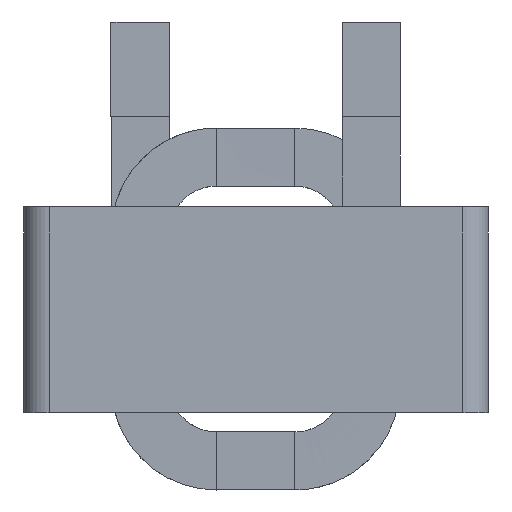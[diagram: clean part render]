
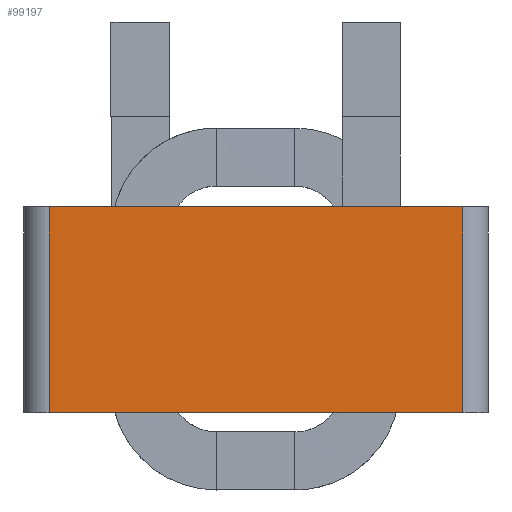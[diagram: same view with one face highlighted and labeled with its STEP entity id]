
A CAD part, front view. The second image highlights one B-rep face of the part: STEP entity #99197.
In plain terms, the highlighted planar face has unit normal (0, -1, 0).
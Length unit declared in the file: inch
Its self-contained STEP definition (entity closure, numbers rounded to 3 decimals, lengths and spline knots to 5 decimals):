
#4378 = CARTESIAN_POINT ( 'NONE',  ( -0.98, -0.61, 0. ) ) ;
#11605 = PLANE ( 'NONE',  #57447 ) ;
#13411 = VERTEX_POINT ( 'NONE', #71083 ) ;
#19534 = EDGE_CURVE ( 'NONE', #13411, #97176, #84042, .T. ) ;
#25353 = DIRECTION ( 'NONE',  ( 0., 0., -1. ) ) ;
#25806 = DIRECTION ( 'NONE',  ( 0., 0., -1. ) ) ;
#27822 = EDGE_CURVE ( 'NONE', #13411, #91884, #98767, .T. ) ;
#27981 = EDGE_LOOP ( 'NONE', ( #82695, #46209, #42177, #44003 ) ) ;
#33005 = CARTESIAN_POINT ( 'NONE',  ( -0.98, -0.61, 0.975 ) ) ;
#37171 = EDGE_CURVE ( 'NONE', #97176, #50827, #63113, .T. ) ;
#38216 = FACE_OUTER_BOUND ( 'NONE', #27981, .T. ) ;
#42177 = ORIENTED_EDGE ( 'NONE', *, *, #27822, .F. ) ;
#44003 = ORIENTED_EDGE ( 'NONE', *, *, #19534, .T. ) ;
#44277 = VECTOR ( 'NONE', #45737, 39.37008 ) ;
#45737 = DIRECTION ( 'NONE',  ( 1., 0., 0. ) ) ;
#46209 = ORIENTED_EDGE ( 'NONE', *, *, #47879, .F. ) ;
#47879 = EDGE_CURVE ( 'NONE', #91884, #50827, #102824, .T. ) ;
#50659 = CARTESIAN_POINT ( 'NONE',  ( -0.98, -0.61, 0.975 ) ) ;
#50827 = VERTEX_POINT ( 'NONE', #83298 ) ;
#50865 = DIRECTION ( 'NONE',  ( 0., 1., 0. ) ) ;
#57447 = AXIS2_PLACEMENT_3D ( 'NONE', #59280, #50865, #100049 ) ;
#59280 = CARTESIAN_POINT ( 'NONE',  ( -0.98, -0.61, 0.975 ) ) ;
#63113 = LINE ( 'NONE', #4378, #44277 ) ;
#67075 = CARTESIAN_POINT ( 'NONE',  ( -0.98, -0.61, 0. ) ) ;
#70164 = VECTOR ( 'NONE', #25353, 39.37008 ) ;
#71083 = CARTESIAN_POINT ( 'NONE',  ( -0.98, -0.61, 0.975 ) ) ;
#72418 = CARTESIAN_POINT ( 'NONE',  ( 0.98, -0.61, 0.975 ) ) ;
#77419 = VECTOR ( 'NONE', #89154, 39.37008 ) ;
#82695 = ORIENTED_EDGE ( 'NONE', *, *, #37171, .T. ) ;
#83298 = CARTESIAN_POINT ( 'NONE',  ( 0.98, -0.61, 0. ) ) ;
#84042 = LINE ( 'NONE', #50659, #89065 ) ;
#89065 = VECTOR ( 'NONE', #25806, 39.37008 ) ;
#89099 = CARTESIAN_POINT ( 'NONE',  ( 0.98, -0.61, 0.975 ) ) ;
#89154 = DIRECTION ( 'NONE',  ( 1., 0., 0. ) ) ;
#91884 = VERTEX_POINT ( 'NONE', #89099 ) ;
#97176 = VERTEX_POINT ( 'NONE', #67075 ) ;
#98767 = LINE ( 'NONE', #33005, #77419 ) ;
#99197 = ADVANCED_FACE ( 'NONE', ( #38216 ), #11605, .F. ) ;
#100049 = DIRECTION ( 'NONE',  ( -1., 0., 0. ) ) ;
#102824 = LINE ( 'NONE', #72418, #70164 ) ;
